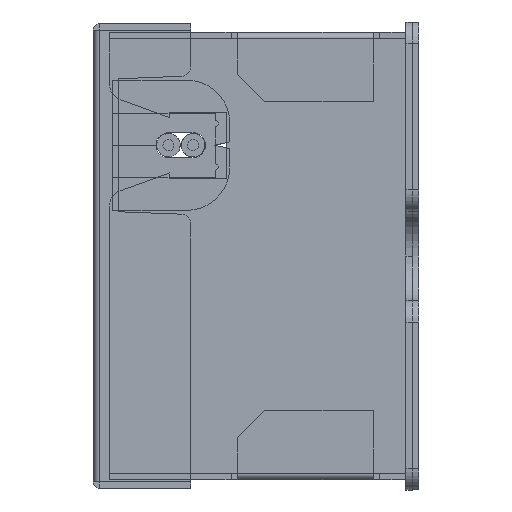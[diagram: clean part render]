
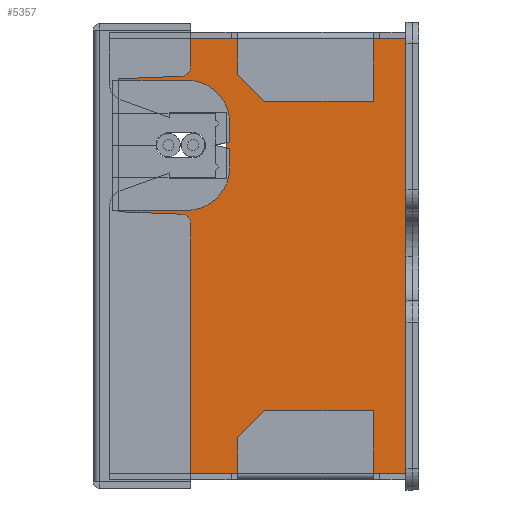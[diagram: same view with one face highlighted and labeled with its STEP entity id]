
A CAD part, left-side view. The second image highlights one B-rep face of the part: STEP entity #5357.
In plain terms, the highlighted planar face has unit normal (-1, 0, 0) as drawn and (0, 0, 1) by its records, which use the part's own axes.
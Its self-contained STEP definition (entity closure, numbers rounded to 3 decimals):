
#66 = EDGE_CURVE ( 'NONE', #1909, #11190, #12680, .T. ) ;
#101 = DIRECTION ( 'NONE',  ( 0., 1., 0. ) ) ;
#647 = ORIENTED_EDGE ( 'NONE', *, *, #15784, .T. ) ;
#832 = VERTEX_POINT ( 'NONE', #1766 ) ;
#836 = EDGE_CURVE ( 'NONE', #6663, #16885, #4611, .T. ) ;
#941 = DIRECTION ( 'NONE',  ( -1., 0., 0. ) ) ;
#1163 = CARTESIAN_POINT ( 'NONE',  ( 15.802, 12.15, 0.6 ) ) ;
#1329 = ORIENTED_EDGE ( 'NONE', *, *, #66, .T. ) ;
#1418 = LINE ( 'NONE', #1816, #11471 ) ;
#1766 = CARTESIAN_POINT ( 'NONE',  ( 20., 13.65, 0.6 ) ) ;
#1816 = CARTESIAN_POINT ( 'NONE',  ( 11.422, -2.213, 0.6 ) ) ;
#1909 = VERTEX_POINT ( 'NONE', #9678 ) ;
#1916 = DIRECTION ( 'NONE',  ( -1., 0., 0. ) ) ;
#2090 = VERTEX_POINT ( 'NONE', #11921 ) ;
#2158 = LINE ( 'NONE', #14846, #5938 ) ;
#2276 = CARTESIAN_POINT ( 'NONE',  ( 13.25, 8.15, 0.6 ) ) ;
#2812 = CARTESIAN_POINT ( 'NONE',  ( 4.598, 12.15, 0.6 ) ) ;
#2825 = LINE ( 'NONE', #12442, #4822 ) ;
#3032 = CARTESIAN_POINT ( 'NONE',  ( 14.393, 12.663, 0.6 ) ) ;
#3073 = CARTESIAN_POINT ( 'NONE',  ( 20., 13.65, 0.6 ) ) ;
#3105 = EDGE_CURVE ( 'NONE', #2090, #3798, #10550, .T. ) ;
#3202 = AXIS2_PLACEMENT_3D ( 'NONE', #1163, #11213, #11154 ) ;
#3264 = ORIENTED_EDGE ( 'NONE', *, *, #18102, .T. ) ;
#3272 = CARTESIAN_POINT ( 'NONE',  ( 7.65, 8.15, 0.6 ) ) ;
#3289 = EDGE_CURVE ( 'NONE', #15855, #6344, #16827, .T. ) ;
#3798 = VERTEX_POINT ( 'NONE', #12530 ) ;
#3955 = CARTESIAN_POINT ( 'NONE',  ( 13.25, -13.65, 0.6 ) ) ;
#4397 = VECTOR ( 'NONE', #11551, 1000. ) ;
#4496 = EDGE_CURVE ( 'NONE', #16885, #832, #5589, .T. ) ;
#4611 = LINE ( 'NONE', #6139, #7737 ) ;
#4822 = VECTOR ( 'NONE', #16829, 1000. ) ;
#4862 = LINE ( 'NONE', #14363, #18059 ) ;
#5013 = ORIENTED_EDGE ( 'NONE', *, *, #3105, .T. ) ;
#5172 = CARTESIAN_POINT ( 'NONE',  ( 7.15, 8.15, 0.6 ) ) ;
#5357 = ADVANCED_FACE ( 'NONE', ( #8250 ), #18331, .T. ) ;
#5384 = VERTEX_POINT ( 'NONE', #11002 ) ;
#5589 = LINE ( 'NONE', #3073, #4397 ) ;
#5609 = ORIENTED_EDGE ( 'NONE', *, *, #3289, .T. ) ;
#5708 = ORIENTED_EDGE ( 'NONE', *, *, #16782, .T. ) ;
#5755 = CARTESIAN_POINT ( 'NONE',  ( -20., -13.65, 0.6 ) ) ;
#5938 = VECTOR ( 'NONE', #16348, 1000. ) ;
#5980 = ORIENTED_EDGE ( 'NONE', *, *, #16672, .T. ) ;
#6093 = CARTESIAN_POINT ( 'NONE',  ( 7.15, 2.9, 0.6 ) ) ;
#6139 = CARTESIAN_POINT ( 'NONE',  ( -20., -13.65, 0.6 ) ) ;
#6168 = CARTESIAN_POINT ( 'NONE',  ( 12.75, 8.15, 0.6 ) ) ;
#6344 = VERTEX_POINT ( 'NONE', #6168 ) ;
#6591 = VERTEX_POINT ( 'NONE', #5172 ) ;
#6663 = VERTEX_POINT ( 'NONE', #5755 ) ;
#6682 = EDGE_CURVE ( 'NONE', #18525, #2090, #15276, .T. ) ;
#6823 = EDGE_CURVE ( 'NONE', #3798, #6663, #8078, .T. ) ;
#6829 = DIRECTION ( 'NONE',  ( 0., -1., 0. ) ) ;
#6834 = DIRECTION ( 'NONE',  ( 0., 0., 1. ) ) ;
#7534 = CIRCLE ( 'NONE', #3202, 1.5 ) ;
#7687 = ORIENTED_EDGE ( 'NONE', *, *, #6682, .T. ) ;
#7737 = VECTOR ( 'NONE', #13280, 1000. ) ;
#8078 = LINE ( 'NONE', #17568, #11420 ) ;
#8184 = DIRECTION ( 'NONE',  ( 1., 0., 0. ) ) ;
#8250 = FACE_OUTER_BOUND ( 'NONE', #13624, .T. ) ;
#8479 = CARTESIAN_POINT ( 'NONE',  ( 20., -13.65, 0.6 ) ) ;
#8593 = LINE ( 'NONE', #3955, #9511 ) ;
#9159 = CARTESIAN_POINT ( 'NONE',  ( -20., 13.65, 0.6 ) ) ;
#9365 = DIRECTION ( 'NONE',  ( -1., 0., 0. ) ) ;
#9511 = VECTOR ( 'NONE', #6829, 1000. ) ;
#9678 = CARTESIAN_POINT ( 'NONE',  ( 13.25, 2.9, 0.6 ) ) ;
#10008 = ORIENTED_EDGE ( 'NONE', *, *, #4496, .T. ) ;
#10101 = EDGE_CURVE ( 'NONE', #6591, #17737, #2158, .T. ) ;
#10431 = DIRECTION ( 'NONE',  ( 0., -1., 0. ) ) ;
#10550 = LINE ( 'NONE', #15088, #13255 ) ;
#10671 = ORIENTED_EDGE ( 'NONE', *, *, #10101, .T. ) ;
#11002 = CARTESIAN_POINT ( 'NONE',  ( 15.802, 13.65, 0.6 ) ) ;
#11154 = DIRECTION ( 'NONE',  ( 1., 0., 0. ) ) ;
#11190 = VERTEX_POINT ( 'NONE', #6093 ) ;
#11213 = DIRECTION ( 'NONE',  ( 0., 0., 1. ) ) ;
#11216 = EDGE_CURVE ( 'NONE', #832, #5384, #12372, .T. ) ;
#11420 = VECTOR ( 'NONE', #10431, 1000. ) ;
#11471 = VECTOR ( 'NONE', #14716, 1000. ) ;
#11551 = DIRECTION ( 'NONE',  ( 0., 1., 0. ) ) ;
#11921 = CARTESIAN_POINT ( 'NONE',  ( 4.598, 13.65, 0.6 ) ) ;
#12372 = LINE ( 'NONE', #9159, #17071 ) ;
#12442 = CARTESIAN_POINT ( 'NONE',  ( -20., 8.15, 0.6 ) ) ;
#12451 = CARTESIAN_POINT ( 'NONE',  ( -20., -13.65, 0.6 ) ) ;
#12530 = CARTESIAN_POINT ( 'NONE',  ( -20., 13.65, 0.6 ) ) ;
#12680 = LINE ( 'NONE', #18056, #16724 ) ;
#12916 = CARTESIAN_POINT ( 'NONE',  ( 1.913, -21.626, 0.6 ) ) ;
#13250 = AXIS2_PLACEMENT_3D ( 'NONE', #12451, #6834, #8184 ) ;
#13255 = VECTOR ( 'NONE', #941, 1000. ) ;
#13280 = DIRECTION ( 'NONE',  ( 1., 0., 0. ) ) ;
#13624 = EDGE_LOOP ( 'NONE', ( #15094, #18015, #5609, #5980, #5708, #1329, #647, #10671, #3264, #7687, #5013, #16258, #14273, #10008 ) ) ;
#14115 = VERTEX_POINT ( 'NONE', #2276 ) ;
#14185 = CARTESIAN_POINT ( 'NONE',  ( 6.007, 12.663, 0.6 ) ) ;
#14247 = AXIS2_PLACEMENT_3D ( 'NONE', #2812, #14398, #15840 ) ;
#14273 = ORIENTED_EDGE ( 'NONE', *, *, #836, .T. ) ;
#14363 = CARTESIAN_POINT ( 'NONE',  ( 7.15, -13.65, 0.6 ) ) ;
#14398 = DIRECTION ( 'NONE',  ( 0., 0., 1. ) ) ;
#14716 = DIRECTION ( 'NONE',  ( -0.342, 0.94, 0. ) ) ;
#14846 = CARTESIAN_POINT ( 'NONE',  ( -20., 8.15, 0.6 ) ) ;
#15088 = CARTESIAN_POINT ( 'NONE',  ( -20., 13.65, 0.6 ) ) ;
#15094 = ORIENTED_EDGE ( 'NONE', *, *, #11216, .T. ) ;
#15276 = CIRCLE ( 'NONE', #14247, 1.5 ) ;
#15656 = EDGE_CURVE ( 'NONE', #5384, #15855, #7534, .T. ) ;
#15744 = DIRECTION ( 'NONE',  ( -0.342, -0.94, 0. ) ) ;
#15784 = EDGE_CURVE ( 'NONE', #11190, #6591, #4862, .T. ) ;
#15840 = DIRECTION ( 'NONE',  ( 1., 0., 0. ) ) ;
#15855 = VERTEX_POINT ( 'NONE', #3032 ) ;
#16258 = ORIENTED_EDGE ( 'NONE', *, *, #6823, .T. ) ;
#16348 = DIRECTION ( 'NONE',  ( 1., 0., 0. ) ) ;
#16608 = VECTOR ( 'NONE', #15744, 1000. ) ;
#16672 = EDGE_CURVE ( 'NONE', #6344, #14115, #2825, .T. ) ;
#16724 = VECTOR ( 'NONE', #9365, 1000. ) ;
#16782 = EDGE_CURVE ( 'NONE', #14115, #1909, #8593, .T. ) ;
#16827 = LINE ( 'NONE', #12916, #16608 ) ;
#16829 = DIRECTION ( 'NONE',  ( 1., 0., 0. ) ) ;
#16885 = VERTEX_POINT ( 'NONE', #8479 ) ;
#17071 = VECTOR ( 'NONE', #1916, 1000. ) ;
#17568 = CARTESIAN_POINT ( 'NONE',  ( -20., 13.65, 0.6 ) ) ;
#17737 = VERTEX_POINT ( 'NONE', #3272 ) ;
#18015 = ORIENTED_EDGE ( 'NONE', *, *, #15656, .T. ) ;
#18056 = CARTESIAN_POINT ( 'NONE',  ( -20., 2.9, 0.6 ) ) ;
#18059 = VECTOR ( 'NONE', #101, 1000. ) ;
#18102 = EDGE_CURVE ( 'NONE', #17737, #18525, #1418, .T. ) ;
#18331 = PLANE ( 'NONE',  #13250 ) ;
#18525 = VERTEX_POINT ( 'NONE', #14185 ) ;
